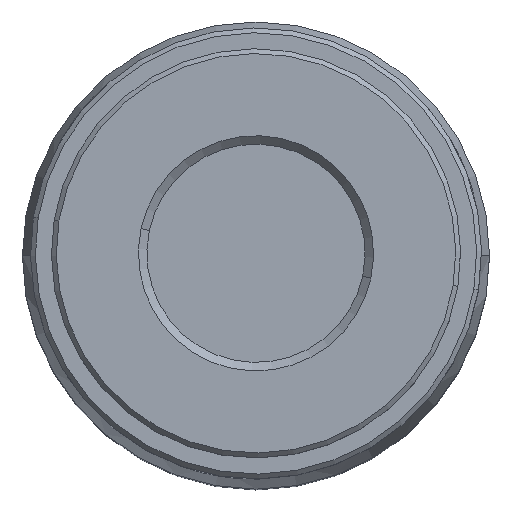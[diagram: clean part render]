
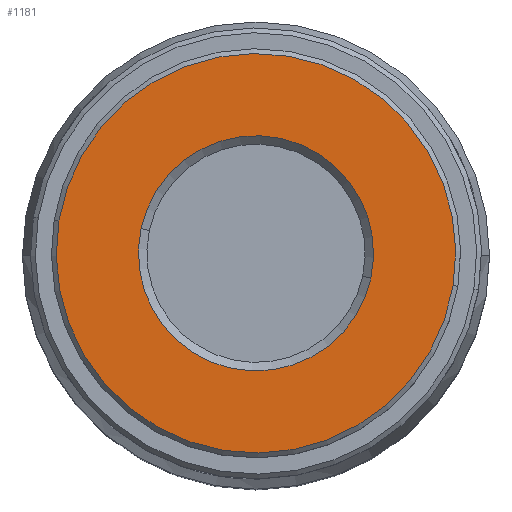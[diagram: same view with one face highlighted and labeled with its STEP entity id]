
A CAD part, top view. The second image highlights one B-rep face of the part: STEP entity #1181.
In plain terms, the highlighted planar face has unit normal (0, 0, 1).
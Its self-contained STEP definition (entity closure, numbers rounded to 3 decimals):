
#38 = ORIENTED_EDGE ( 'NONE', *, *, #254, .T. ) ;
#41 = PLANE ( 'NONE',  #1310 ) ;
#46 = AXIS2_PLACEMENT_3D ( 'NONE', #520, #738, #856 ) ;
#51 = CIRCLE ( 'NONE', #46, 12.4 ) ;
#91 = CARTESIAN_POINT ( 'NONE',  ( 0., 0., 50.835 ) ) ;
#176 = CARTESIAN_POINT ( 'NONE',  ( -7.138, 1.53, 50.835 ) ) ;
#187 = EDGE_LOOP ( 'NONE', ( #1276, #38 ) ) ;
#188 = CARTESIAN_POINT ( 'NONE',  ( 1.778, 10.855, 50.835 ) ) ;
#225 = DIRECTION ( 'NONE',  ( 0., 0., -1. ) ) ;
#248 = AXIS2_PLACEMENT_3D ( 'NONE', #839, #313, #973 ) ;
#254 = EDGE_CURVE ( 'NONE', #564, #558, #682, .T. ) ;
#291 = DIRECTION ( 'NONE',  ( -0.987, 0.162, 0. ) ) ;
#313 = DIRECTION ( 'NONE',  ( 0., 0., 1. ) ) ;
#352 = AXIS2_PLACEMENT_3D ( 'NONE', #1342, #561, #1462 ) ;
#363 = FACE_BOUND ( 'NONE', #187, .T. ) ;
#468 = FACE_OUTER_BOUND ( 'NONE', #1188, .T. ) ;
#520 = CARTESIAN_POINT ( 'NONE',  ( 0., 0., 50.835 ) ) ;
#558 = VERTEX_POINT ( 'NONE', #1068 ) ;
#561 = DIRECTION ( 'NONE',  ( 0., 0., -1. ) ) ;
#564 = VERTEX_POINT ( 'NONE', #176 ) ;
#682 = CIRCLE ( 'NONE', #352, 7.3 ) ;
#738 = DIRECTION ( 'NONE',  ( 0., 0., 1. ) ) ;
#807 = CIRCLE ( 'NONE', #1021, 7.3 ) ;
#825 = DIRECTION ( 'NONE',  ( 0., 0., -1. ) ) ;
#839 = CARTESIAN_POINT ( 'NONE',  ( 0., 0., 50.835 ) ) ;
#856 = DIRECTION ( 'NONE',  ( -0.987, 0.162, 0. ) ) ;
#945 = EDGE_CURVE ( 'NONE', #993, #1066, #1097, .T. ) ;
#973 = DIRECTION ( 'NONE',  ( -0.987, 0.162, 0. ) ) ;
#993 = VERTEX_POINT ( 'NONE', #1102 ) ;
#996 = CARTESIAN_POINT ( 'NONE',  ( -12.237, 2.005, 50.835 ) ) ;
#1021 = AXIS2_PLACEMENT_3D ( 'NONE', #91, #225, #1460 ) ;
#1027 = EDGE_CURVE ( 'NONE', #558, #564, #807, .T. ) ;
#1039 = ORIENTED_EDGE ( 'NONE', *, *, #945, .T. ) ;
#1066 = VERTEX_POINT ( 'NONE', #996 ) ;
#1068 = CARTESIAN_POINT ( 'NONE',  ( 7.138, -1.53, 50.835 ) ) ;
#1097 = CIRCLE ( 'NONE', #248, 12.4 ) ;
#1102 = CARTESIAN_POINT ( 'NONE',  ( 12.237, -2.005, 50.835 ) ) ;
#1181 = ADVANCED_FACE ( 'NONE', ( #468, #363 ), #41, .F. ) ;
#1188 = EDGE_LOOP ( 'NONE', ( #1208, #1039 ) ) ;
#1208 = ORIENTED_EDGE ( 'NONE', *, *, #1292, .T. ) ;
#1276 = ORIENTED_EDGE ( 'NONE', *, *, #1027, .T. ) ;
#1292 = EDGE_CURVE ( 'NONE', #1066, #993, #51, .T. ) ;
#1310 = AXIS2_PLACEMENT_3D ( 'NONE', #188, #825, #291 ) ;
#1342 = CARTESIAN_POINT ( 'NONE',  ( 0., 0., 50.835 ) ) ;
#1460 = DIRECTION ( 'NONE',  ( -0.978, 0.21, 0. ) ) ;
#1462 = DIRECTION ( 'NONE',  ( -0.978, 0.21, 0. ) ) ;
